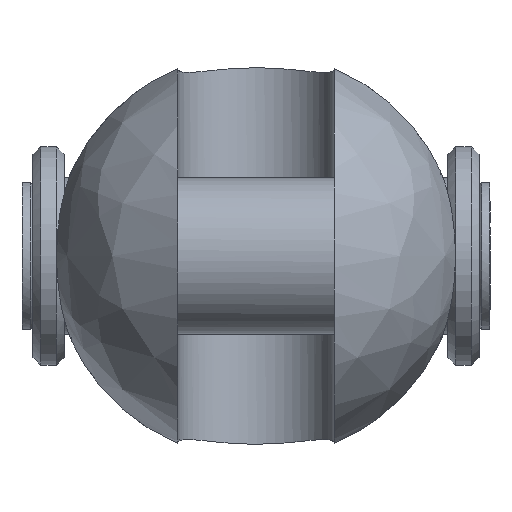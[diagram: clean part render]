
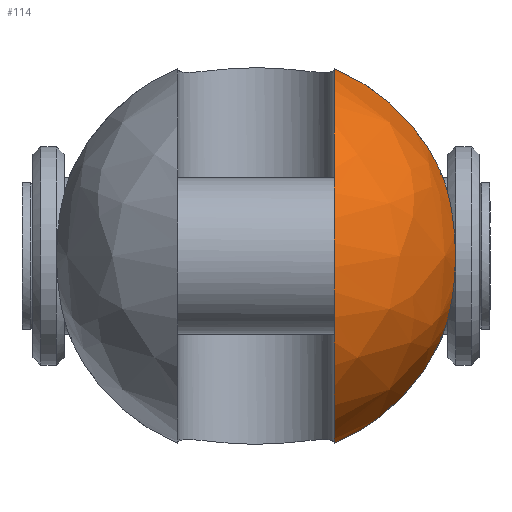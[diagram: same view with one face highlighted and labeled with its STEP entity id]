
A CAD part, left-side view. The second image highlights one B-rep face of the part: STEP entity #114.
In plain terms, the highlighted free-form (B-spline) face has degree [2, 2] with [9, 5] control points.
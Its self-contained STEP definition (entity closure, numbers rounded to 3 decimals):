
#114=ADVANCED_FACE('',(#202),#1530,.T.);
#202=FACE_OUTER_BOUND('',#302,.T.);
#302=EDGE_LOOP('',(#740,#741,#742,#743,#744,#745));
#740=ORIENTED_EDGE('',*,*,#999,.T.);
#741=ORIENTED_EDGE('',*,*,#996,.F.);
#742=ORIENTED_EDGE('',*,*,#1020,.T.);
#743=ORIENTED_EDGE('',*,*,#1022,.T.);
#744=ORIENTED_EDGE('',*,*,#1021,.T.);
#745=ORIENTED_EDGE('',*,*,#990,.F.);
#990=EDGE_CURVE('',#1420,#1421,#1248,.T.);
#996=EDGE_CURVE('',#1426,#1427,#1249,.T.);
#999=EDGE_CURVE('',#1420,#1427,#1251,.T.);
#1020=EDGE_CURVE('',#1426,#1438,#1263,.T.);
#1021=EDGE_CURVE('',#1439,#1421,#1264,.T.);
#1022=EDGE_CURVE('',#1438,#1439,#1124,.T.);
#1124=B_SPLINE_CURVE_WITH_KNOTS('',3,(#3574,#3575,#3576,#3577,#3578,#3579,
#3580,#3581,#3582,#3583,#3584,#3585,#3586,#3587),.UNSPECIFIED.,.F.,.F.,
(4,2,2,2,2,2,4),(-12.357,-11.17,-8.674,
-6.178,-3.683,-1.187,0.),.UNSPECIFIED.);
#1248=(
BOUNDED_CURVE()
B_SPLINE_CURVE(2,(#3465,#3466,#3467),.UNSPECIFIED.,.F.,.F.)
B_SPLINE_CURVE_WITH_KNOTS((3,3),(0.,9.609),.UNSPECIFIED.)
CURVE()
GEOMETRIC_REPRESENTATION_ITEM()
RATIONAL_B_SPLINE_CURVE((1.,0.932,1.))
REPRESENTATION_ITEM('')
);
#1249=(
BOUNDED_CURVE()
B_SPLINE_CURVE(2,(#3486,#3487,#3488),.UNSPECIFIED.,.F.,.F.)
B_SPLINE_CURVE_WITH_KNOTS((3,3),(0.,9.609),.UNSPECIFIED.)
CURVE()
GEOMETRIC_REPRESENTATION_ITEM()
RATIONAL_B_SPLINE_CURVE((1.,0.932,1.))
REPRESENTATION_ITEM('')
);
#1251=(
BOUNDED_CURVE()
B_SPLINE_CURVE(2,(#3494,#3495,#3496,#3497,#3498),.UNSPECIFIED.,.F.,.F.)
B_SPLINE_CURVE_WITH_KNOTS((3,2,3),(-37.699,-18.85,
0.),.UNSPECIFIED.)
CURVE()
GEOMETRIC_REPRESENTATION_ITEM()
RATIONAL_B_SPLINE_CURVE((1.,0.707,1.,0.707,1.))
REPRESENTATION_ITEM('')
);
#1263=(
BOUNDED_CURVE()
B_SPLINE_CURVE(2,(#3568,#3569,#3570),.UNSPECIFIED.,.F.,.F.)
B_SPLINE_CURVE_WITH_KNOTS((3,3),(-0.318,0.),.UNSPECIFIED.)
CURVE()
GEOMETRIC_REPRESENTATION_ITEM()
RATIONAL_B_SPLINE_CURVE((1.,1.,1.))
REPRESENTATION_ITEM('')
);
#1264=(
BOUNDED_CURVE()
B_SPLINE_CURVE(2,(#3571,#3572,#3573),.UNSPECIFIED.,.F.,.F.)
B_SPLINE_CURVE_WITH_KNOTS((3,3),(-0.318,0.),.UNSPECIFIED.)
CURVE()
GEOMETRIC_REPRESENTATION_ITEM()
RATIONAL_B_SPLINE_CURVE((1.,1.,1.))
REPRESENTATION_ITEM('')
);
#1420=VERTEX_POINT('',#3297);
#1421=VERTEX_POINT('',#3298);
#1426=VERTEX_POINT('',#3303);
#1427=VERTEX_POINT('',#3304);
#1438=VERTEX_POINT('',#3315);
#1439=VERTEX_POINT('',#3316);
#1530=(
BOUNDED_SURFACE()
B_SPLINE_SURFACE(2,2,((#3169,#3170,#3171,#3172,#3173),(#3174,#3175,#3176,
#3177,#3178),(#3179,#3180,#3181,#3182,#3183),(#3184,#3185,#3186,#3187,#3188),
(#3189,#3190,#3191,#3192,#3193),(#3194,#3195,#3196,#3197,#3198),(#3199,
#3200,#3201,#3202,#3203),(#3204,#3205,#3206,#3207,#3208),(#3209,#3210,#3211,
#3212,#3213)),.UNSPECIFIED.,.T.,.F.,.F.)
B_SPLINE_SURFACE_WITH_KNOTS((3,2,2,2,3),(3,2,3),(0.,1.571,3.142,
4.712,6.283),(-1.571,0.,1.571),
 .UNSPECIFIED.)
GEOMETRIC_REPRESENTATION_ITEM()
RATIONAL_B_SPLINE_SURFACE(((1.,0.707,1.,0.707,1.),
(0.707,0.5,0.707,0.5,0.707),(1.,0.707,
1.,0.707,1.),(0.707,0.5,0.707,0.5,0.707),
(1.,0.707,1.,0.707,1.),(0.707,0.5,0.707,
0.5,0.707),(1.,0.707,1.,0.707,1.),(0.707,
0.5,0.707,0.5,0.707),(1.,0.707,1.,0.707,
1.)))
REPRESENTATION_ITEM('')
SURFACE()
);
#3169=CARTESIAN_POINT('',(-18.5,0.,0.));
#3170=CARTESIAN_POINT('',(-18.5,13.,0.));
#3171=CARTESIAN_POINT('',(-5.5,13.,0.));
#3172=CARTESIAN_POINT('',(7.5,13.,0.));
#3173=CARTESIAN_POINT('',(7.5,0.,0.));
#3174=CARTESIAN_POINT('',(-18.5,0.,0.));
#3175=CARTESIAN_POINT('',(-18.5,13.,13.));
#3176=CARTESIAN_POINT('',(-5.5,13.,13.));
#3177=CARTESIAN_POINT('',(7.5,13.,13.));
#3178=CARTESIAN_POINT('',(7.5,0.,0.));
#3179=CARTESIAN_POINT('',(-18.5,0.,0.));
#3180=CARTESIAN_POINT('',(-18.5,0.,13.));
#3181=CARTESIAN_POINT('',(-5.5,0.,13.));
#3182=CARTESIAN_POINT('',(7.5,0.,13.));
#3183=CARTESIAN_POINT('',(7.5,0.,0.));
#3184=CARTESIAN_POINT('',(-18.5,0.,0.));
#3185=CARTESIAN_POINT('',(-18.5,-13.,13.));
#3186=CARTESIAN_POINT('',(-5.5,-13.,13.));
#3187=CARTESIAN_POINT('',(7.5,-13.,13.));
#3188=CARTESIAN_POINT('',(7.5,0.,0.));
#3189=CARTESIAN_POINT('',(-18.5,0.,0.));
#3190=CARTESIAN_POINT('',(-18.5,-13.,0.));
#3191=CARTESIAN_POINT('',(-5.5,-13.,0.));
#3192=CARTESIAN_POINT('',(7.5,-13.,0.));
#3193=CARTESIAN_POINT('',(7.5,0.,0.));
#3194=CARTESIAN_POINT('',(-18.5,0.,0.));
#3195=CARTESIAN_POINT('',(-18.5,-13.,-13.));
#3196=CARTESIAN_POINT('',(-5.5,-13.,-13.));
#3197=CARTESIAN_POINT('',(7.5,-13.,-13.));
#3198=CARTESIAN_POINT('',(7.5,0.,0.));
#3199=CARTESIAN_POINT('',(-18.5,0.,0.));
#3200=CARTESIAN_POINT('',(-18.5,0.,-13.));
#3201=CARTESIAN_POINT('',(-5.5,0.,-13.));
#3202=CARTESIAN_POINT('',(7.5,0.,-13.));
#3203=CARTESIAN_POINT('',(7.5,0.,0.));
#3204=CARTESIAN_POINT('',(-18.5,0.,0.));
#3205=CARTESIAN_POINT('',(-18.5,13.,-13.));
#3206=CARTESIAN_POINT('',(-5.5,13.,-13.));
#3207=CARTESIAN_POINT('',(7.5,13.,-13.));
#3208=CARTESIAN_POINT('',(7.5,0.,0.));
#3209=CARTESIAN_POINT('',(-18.5,0.,0.));
#3210=CARTESIAN_POINT('',(-18.5,13.,0.));
#3211=CARTESIAN_POINT('',(-5.5,13.,0.));
#3212=CARTESIAN_POINT('',(7.5,13.,0.));
#3213=CARTESIAN_POINT('',(7.5,0.,0.));
#3297=CARTESIAN_POINT('',(-5.5,-5.,12.));
#3298=CARTESIAN_POINT('',(-5.5,-11.779,5.5));
#3303=CARTESIAN_POINT('',(-5.5,-11.779,-5.5));
#3304=CARTESIAN_POINT('',(-5.5,-5.,-12.));
#3315=CARTESIAN_POINT('',(-5.818,-11.779,-5.491));
#3316=CARTESIAN_POINT('',(-5.818,-11.779,5.491));
#3465=CARTESIAN_POINT('',(-5.5,-5.,12.));
#3466=CARTESIAN_POINT('',(-5.5,-9.649,10.063));
#3467=CARTESIAN_POINT('',(-5.5,-11.779,5.5));
#3486=CARTESIAN_POINT('',(-5.5,-11.779,-5.5));
#3487=CARTESIAN_POINT('',(-5.5,-9.649,-10.063));
#3488=CARTESIAN_POINT('',(-5.5,-5.,-12.));
#3494=CARTESIAN_POINT('',(-5.5,-5.,12.));
#3495=CARTESIAN_POINT('',(-17.5,-5.,12.));
#3496=CARTESIAN_POINT('',(-17.5,-5.,0.));
#3497=CARTESIAN_POINT('',(-17.5,-5.,-12.));
#3498=CARTESIAN_POINT('',(-5.5,-5.,-12.));
#3568=CARTESIAN_POINT('',(-5.5,-11.779,-5.5));
#3569=CARTESIAN_POINT('',(-5.659,-11.779,-5.5));
#3570=CARTESIAN_POINT('',(-5.818,-11.779,-5.491));
#3571=CARTESIAN_POINT('',(-5.818,-11.779,5.491));
#3572=CARTESIAN_POINT('',(-5.659,-11.779,5.5));
#3573=CARTESIAN_POINT('',(-5.5,-11.779,5.5));
#3574=CARTESIAN_POINT('',(-5.818,-11.779,-5.491));
#3575=CARTESIAN_POINT('',(-6.077,-11.9,-5.217));
#3576=CARTESIAN_POINT('',(-6.314,-12.009,-4.926));
#3577=CARTESIAN_POINT('',(-6.968,-12.306,-4.004));
#3578=CARTESIAN_POINT('',(-7.358,-12.478,-3.251));
#3579=CARTESIAN_POINT('',(-7.874,-12.704,-1.645));
#3580=CARTESIAN_POINT('',(-8.,-12.757,-0.793));
#3581=CARTESIAN_POINT('',(-8.,-12.757,0.793));
#3582=CARTESIAN_POINT('',(-7.874,-12.704,1.645));
#3583=CARTESIAN_POINT('',(-7.358,-12.478,3.251));
#3584=CARTESIAN_POINT('',(-6.968,-12.306,4.004));
#3585=CARTESIAN_POINT('',(-6.314,-12.009,4.926));
#3586=CARTESIAN_POINT('',(-6.077,-11.9,5.217));
#3587=CARTESIAN_POINT('',(-5.818,-11.779,5.491));
